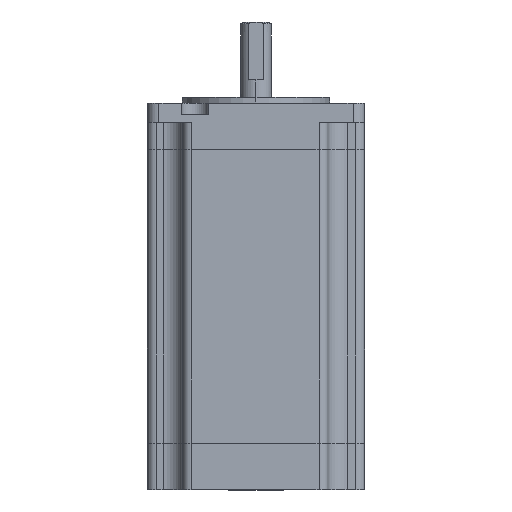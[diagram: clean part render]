
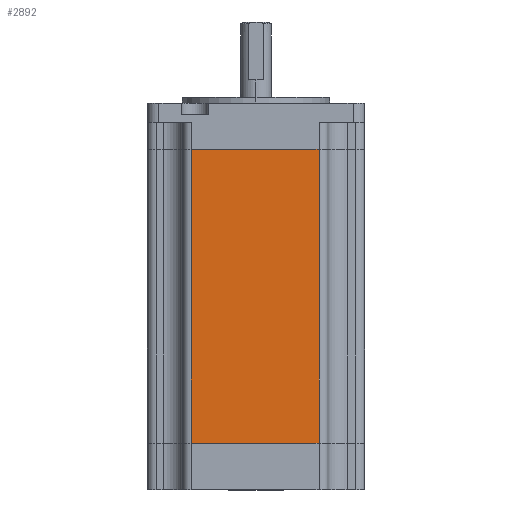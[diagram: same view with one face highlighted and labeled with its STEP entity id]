
A CAD part, top view. The second image highlights one B-rep face of the part: STEP entity #2892.
In plain terms, the highlighted planar face has unit normal (0, 0, 1).
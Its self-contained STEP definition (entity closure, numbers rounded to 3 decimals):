
#193 = PLANE ( 'NONE',  #4783 ) ;
#256 = LINE ( 'NONE', #5005, #1317 ) ;
#295 = VECTOR ( 'NONE', #1182, 1000. ) ;
#361 = EDGE_CURVE ( 'NONE', #3497, #2616, #256, .T. ) ;
#530 = VECTOR ( 'NONE', #2309, 1000. ) ;
#581 = CARTESIAN_POINT ( 'NONE',  ( 25.1, -7.001, 28.1 ) ) ;
#925 = CARTESIAN_POINT ( 'NONE',  ( 16.3, -7.001, 28.1 ) ) ;
#1155 = CARTESIAN_POINT ( 'NONE',  ( 25.1, 5., 28.1 ) ) ;
#1182 = DIRECTION ( 'NONE',  ( 0., 1., 0. ) ) ;
#1317 = VECTOR ( 'NONE', #3556, 1000. ) ;
#1345 = ORIENTED_EDGE ( 'NONE', *, *, #2566, .F. ) ;
#1438 = VERTEX_POINT ( 'NONE', #925 ) ;
#2002 = LINE ( 'NONE', #6137, #295 ) ;
#2309 = DIRECTION ( 'NONE',  ( 0., 1., 0. ) ) ;
#2405 = EDGE_CURVE ( 'NONE', #3497, #1438, #6266, .T. ) ;
#2470 = FACE_OUTER_BOUND ( 'NONE', #2938, .T. ) ;
#2566 = EDGE_CURVE ( 'NONE', #2616, #3702, #2002, .T. ) ;
#2616 = VERTEX_POINT ( 'NONE', #4687 ) ;
#2670 = ORIENTED_EDGE ( 'NONE', *, *, #361, .F. ) ;
#2892 = ADVANCED_FACE ( 'NONE', ( #2470 ), #193, .F. ) ;
#2938 = EDGE_LOOP ( 'NONE', ( #2670, #4528, #4546, #1345 ) ) ;
#3497 = VERTEX_POINT ( 'NONE', #4212 ) ;
#3556 = DIRECTION ( 'NONE',  ( -1., 0., 0. ) ) ;
#3646 = DIRECTION ( 'NONE',  ( -1., 0., 0. ) ) ;
#3702 = VERTEX_POINT ( 'NONE', #4842 ) ;
#4180 = EDGE_CURVE ( 'NONE', #3702, #1438, #4672, .T. ) ;
#4212 = CARTESIAN_POINT ( 'NONE',  ( 16.3, -82.99, 28.1 ) ) ;
#4229 = CARTESIAN_POINT ( 'NONE',  ( 16.3, -95., 28.1 ) ) ;
#4520 = DIRECTION ( 'NONE',  ( 1., 0., 0. ) ) ;
#4528 = ORIENTED_EDGE ( 'NONE', *, *, #2405, .T. ) ;
#4546 = ORIENTED_EDGE ( 'NONE', *, *, #4180, .F. ) ;
#4672 = LINE ( 'NONE', #581, #5051 ) ;
#4687 = CARTESIAN_POINT ( 'NONE',  ( -16.7, -82.99, 28.1 ) ) ;
#4783 = AXIS2_PLACEMENT_3D ( 'NONE', #1155, #6047, #3646 ) ;
#4842 = CARTESIAN_POINT ( 'NONE',  ( -16.7, -7.001, 28.1 ) ) ;
#5005 = CARTESIAN_POINT ( 'NONE',  ( 25.1, -82.99, 28.1 ) ) ;
#5051 = VECTOR ( 'NONE', #4520, 1000. ) ;
#6047 = DIRECTION ( 'NONE',  ( 0., 0., -1. ) ) ;
#6137 = CARTESIAN_POINT ( 'NONE',  ( -16.7, -95., 28.1 ) ) ;
#6266 = LINE ( 'NONE', #4229, #530 ) ;
